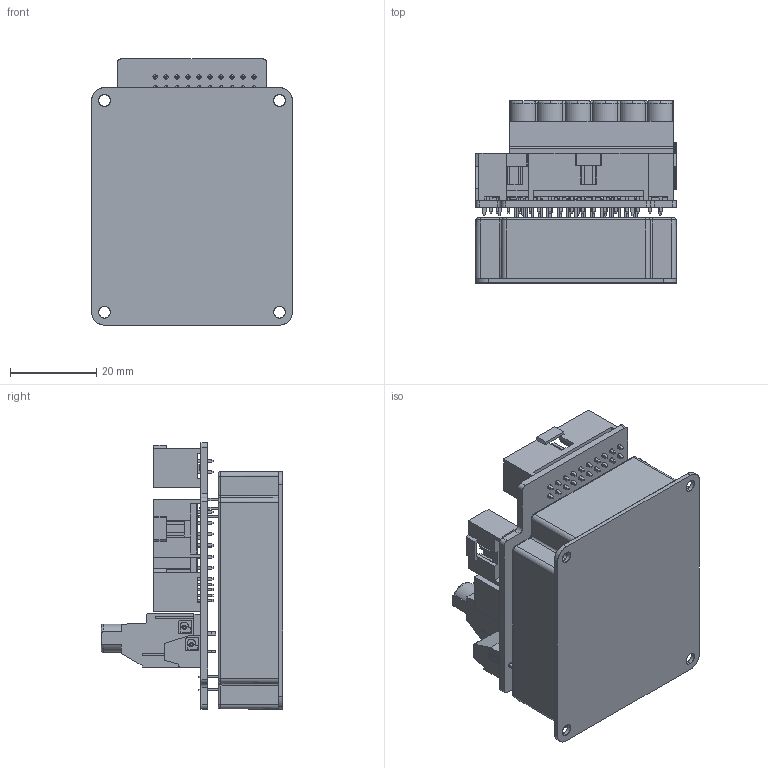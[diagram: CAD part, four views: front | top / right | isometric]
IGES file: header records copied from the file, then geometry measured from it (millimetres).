
Start section: SolidWorks IGES file using analytic representation for surfaces
Global section: file name: C:\Users\yakovs\Desktop\SOLO WHI M HIGH CURRENT.IGS; native system: SolidWorks 2018; preprocessor: SolidWorks 2018; author: yakovs; date: 190624.142638; units: millimetre
Bounding box: 46.54 x 42.1 x 61.68 mm (x, y, z)
Surface area: 29305.9 mm2 (no closed solid volume)
Topology: 0 solids, 0 shells, 2821 faces, 20510 edges, 20510 vertices
Faces by surface type: bspline 2250, revolution 571
